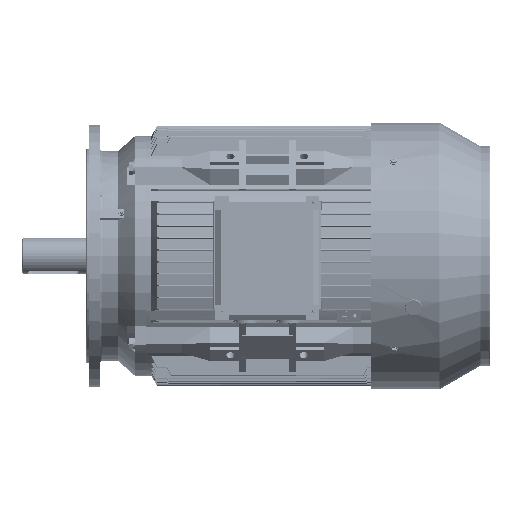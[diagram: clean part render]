
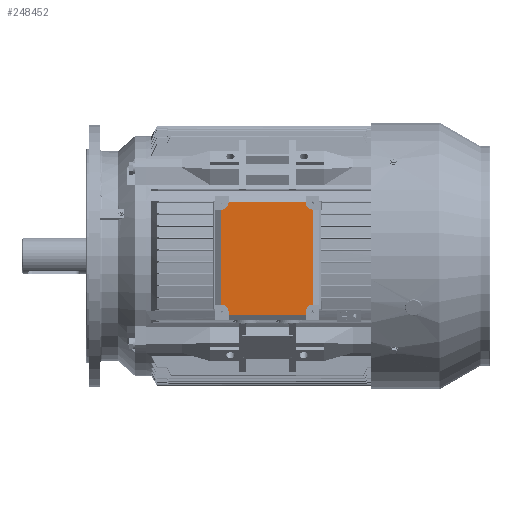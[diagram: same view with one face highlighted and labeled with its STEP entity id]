
A CAD part, top view. The second image highlights one B-rep face of the part: STEP entity #248452.
In plain terms, the highlighted planar face has unit normal (0, 0, 1).
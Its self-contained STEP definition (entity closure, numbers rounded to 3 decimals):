
#90218 = DIRECTION ( 'NONE',  ( -1., 0., 0. ) ) ;
#90222 = DIRECTION ( 'NONE',  ( 0., 0., 1. ) ) ;
#92531 = LINE ( 'NONE', #92857, #92853 ) ;
#92582 = CARTESIAN_POINT ( 'NONE',  ( -102., 97., 16. ) ) ;
#92592 = DIRECTION ( 'NONE',  ( -1., 0., 0. ) ) ;
#92595 = VECTOR ( 'NONE', #92592, 1000. ) ;
#92600 = CARTESIAN_POINT ( 'NONE',  ( -102., 97., 16. ) ) ;
#92601 = LINE ( 'NONE', #92600, #92595 ) ;
#92718 = CARTESIAN_POINT ( 'NONE',  ( -117., 81., 16. ) ) ;
#92736 = DIRECTION ( 'NONE',  ( -1., 0., 0. ) ) ;
#92740 = DIRECTION ( 'NONE',  ( 0., 0., 1. ) ) ;
#92744 = CARTESIAN_POINT ( 'NONE',  ( -117., 96., 16. ) ) ;
#92746 = AXIS2_PLACEMENT_3D ( 'NONE', #92744, #92740, #92736 ) ;
#92750 = CIRCLE ( 'NONE', #92746, 15. ) ;
#92843 = CARTESIAN_POINT ( 'NONE',  ( -102., 96., 16. ) ) ;
#92848 = DIRECTION ( 'NONE',  ( 0., 1., 0. ) ) ;
#92853 = VECTOR ( 'NONE', #92848, 1000. ) ;
#92857 = CARTESIAN_POINT ( 'NONE',  ( -102., 109., 16. ) ) ;
#92870 = CARTESIAN_POINT ( 'NONE',  ( -117., -96., 16. ) ) ;
#92872 = AXIS2_PLACEMENT_3D ( 'NONE', #92870, #90222, #90218 ) ;
#92875 = CIRCLE ( 'NONE', #92872, 15. ) ;
#93058 = PLANE ( 'NONE',  #93380 ) ;
#93061 = FACE_OUTER_BOUND ( 'NONE', #248459, .T. ) ;
#93068 = CARTESIAN_POINT ( 'NONE',  ( -102., -97., 16. ) ) ;
#93119 = DIRECTION ( 'NONE',  ( 0., 1., 0. ) ) ;
#93121 = VECTOR ( 'NONE', #93119, 1000. ) ;
#93125 = CARTESIAN_POINT ( 'NONE',  ( -102., -109., 16. ) ) ;
#93127 = LINE ( 'NONE', #93125, #93121 ) ;
#93171 = CARTESIAN_POINT ( 'NONE',  ( -102., -96., 16. ) ) ;
#93212 = CARTESIAN_POINT ( 'NONE',  ( 97., 96., 16. ) ) ;
#93216 = CARTESIAN_POINT ( 'NONE',  ( 97., 97., 16. ) ) ;
#93250 = DIRECTION ( 'NONE',  ( 0., -1., 0. ) ) ;
#93255 = VECTOR ( 'NONE', #93250, 1000. ) ;
#93258 = CARTESIAN_POINT ( 'NONE',  ( 97., 109., 16. ) ) ;
#93284 = LINE ( 'NONE', #93258, #93255 ) ;
#93374 = DIRECTION ( 'NONE',  ( 1., 0., 0. ) ) ;
#93376 = DIRECTION ( 'NONE',  ( 0., 0., 1. ) ) ;
#93379 = CARTESIAN_POINT ( 'NONE',  ( -130., -109., 16. ) ) ;
#93380 = AXIS2_PLACEMENT_3D ( 'NONE', #93379, #93376, #93374 ) ;
#93432 = CARTESIAN_POINT ( 'NONE',  ( 118., 81., 16. ) ) ;
#93458 = DIRECTION ( 'NONE',  ( 0., 1., 0. ) ) ;
#93460 = VECTOR ( 'NONE', #93458, 1000. ) ;
#93462 = CARTESIAN_POINT ( 'NONE',  ( 118., 81., 16. ) ) ;
#93464 = LINE ( 'NONE', #93462, #93460 ) ;
#93592 = DIRECTION ( 'NONE',  ( 0., -1., 0. ) ) ;
#93593 = VECTOR ( 'NONE', #93592, 1000. ) ;
#93596 = CARTESIAN_POINT ( 'NONE',  ( -118., -81., 16. ) ) ;
#93598 = LINE ( 'NONE', #93596, #93593 ) ;
#93650 = CARTESIAN_POINT ( 'NONE',  ( -118., 81., 16. ) ) ;
#93681 = DIRECTION ( 'NONE',  ( 1., 0., 0. ) ) ;
#93683 = VECTOR ( 'NONE', #93681, 1000. ) ;
#93687 = CARTESIAN_POINT ( 'NONE',  ( -130., 81., 16. ) ) ;
#93696 = LINE ( 'NONE', #93687, #93683 ) ;
#93788 = CARTESIAN_POINT ( 'NONE',  ( -117., -81., 16. ) ) ;
#93815 = DIRECTION ( 'NONE',  ( -1., 0., 0. ) ) ;
#93817 = VECTOR ( 'NONE', #93815, 1000. ) ;
#93820 = CARTESIAN_POINT ( 'NONE',  ( -130., -81., 16. ) ) ;
#93822 = LINE ( 'NONE', #93820, #93817 ) ;
#93869 = CARTESIAN_POINT ( 'NONE',  ( -118., -81., 16. ) ) ;
#93877 = CARTESIAN_POINT ( 'NONE',  ( 112., -96., 16. ) ) ;
#93934 = CARTESIAN_POINT ( 'NONE',  ( 97., -96., 16. ) ) ;
#93937 = DIRECTION ( 'NONE',  ( 0., -1., 0. ) ) ;
#93940 = VECTOR ( 'NONE', #93937, 1000. ) ;
#93941 = CARTESIAN_POINT ( 'NONE',  ( 97., -109., 16. ) ) ;
#93943 = LINE ( 'NONE', #93941, #93940 ) ;
#94091 = CARTESIAN_POINT ( 'NONE',  ( 118., -81., 16. ) ) ;
#94122 = DIRECTION ( 'NONE',  ( -1., 0., 0. ) ) ;
#94126 = VECTOR ( 'NONE', #94122, 1000. ) ;
#94129 = CARTESIAN_POINT ( 'NONE',  ( 130., -81., 16. ) ) ;
#94131 = LINE ( 'NONE', #94129, #94126 ) ;
#94158 = CARTESIAN_POINT ( 'NONE',  ( 112., -81., 16. ) ) ;
#94198 = DIRECTION ( 'NONE',  ( -1., 0., 0. ) ) ;
#94200 = DIRECTION ( 'NONE',  ( 0., 0., 1. ) ) ;
#94204 = AXIS2_PLACEMENT_3D ( 'NONE', #93877, #94200, #94198 ) ;
#94206 = CIRCLE ( 'NONE', #94204, 15. ) ;
#94395 = CARTESIAN_POINT ( 'NONE',  ( 97., -97., 16. ) ) ;
#94398 = DIRECTION ( 'NONE',  ( 1., 0., 0. ) ) ;
#94400 = VECTOR ( 'NONE', #94398, 1000. ) ;
#94403 = CARTESIAN_POINT ( 'NONE',  ( 97., -97., 16. ) ) ;
#94407 = LINE ( 'NONE', #94403, #94400 ) ;
#94751 = CARTESIAN_POINT ( 'NONE',  ( 112., 81., 16. ) ) ;
#94756 = DIRECTION ( 'NONE',  ( 1., 0., 0. ) ) ;
#94759 = VECTOR ( 'NONE', #94756, 1000. ) ;
#94764 = CARTESIAN_POINT ( 'NONE',  ( 130., 81., 16. ) ) ;
#94766 = LINE ( 'NONE', #94764, #94759 ) ;
#94961 = DIRECTION ( 'NONE',  ( -1., 0., 0. ) ) ;
#94964 = DIRECTION ( 'NONE',  ( 0., 0., 1. ) ) ;
#94968 = CARTESIAN_POINT ( 'NONE',  ( 112., 96., 16. ) ) ;
#94970 = AXIS2_PLACEMENT_3D ( 'NONE', #94968, #94964, #94961 ) ;
#94973 = CIRCLE ( 'NONE', #94970, 15. ) ;
#248233 = EDGE_CURVE ( 'NONE', #248501, #248238, #92601, .T. ) ;
#248238 = VERTEX_POINT ( 'NONE', #92582 ) ;
#248251 = ORIENTED_EDGE ( 'NONE', *, *, #248270, .F. ) ;
#248270 = EDGE_CURVE ( 'NONE', #248280, #248238, #92531, .T. ) ;
#248280 = VERTEX_POINT ( 'NONE', #92843 ) ;
#248296 = ORIENTED_EDGE ( 'NONE', *, *, #248314, .F. ) ;
#248314 = EDGE_CURVE ( 'NONE', #248325, #248280, #92750, .T. ) ;
#248325 = VERTEX_POINT ( 'NONE', #92718 ) ;
#248385 = EDGE_CURVE ( 'NONE', #248393, #248661, #92875, .T. ) ;
#248393 = VERTEX_POINT ( 'NONE', #93171 ) ;
#248402 = ORIENTED_EDGE ( 'NONE', *, *, #248423, .F. ) ;
#248423 = EDGE_CURVE ( 'NONE', #248435, #248393, #93127, .T. ) ;
#248435 = VERTEX_POINT ( 'NONE', #93068 ) ;
#248452 = ADVANCED_FACE ( 'NONE', ( #93061 ), #93058, .T. ) ;
#248459 = EDGE_LOOP ( 'NONE', ( #248482, #248522, #248251, #248296, #248572, #248605, #248641, #248675, #248402, #248966, #248697, #248752, #248786, #248832, #249056, #249096 ) ) ;
#248482 = ORIENTED_EDGE ( 'NONE', *, *, #248490, .F. ) ;
#248490 = EDGE_CURVE ( 'NONE', #248501, #248505, #93284, .T. ) ;
#248501 = VERTEX_POINT ( 'NONE', #93216 ) ;
#248505 = VERTEX_POINT ( 'NONE', #93212 ) ;
#248522 = ORIENTED_EDGE ( 'NONE', *, *, #248233, .T. ) ;
#248544 = EDGE_CURVE ( 'NONE', #248807, #248554, #93464, .T. ) ;
#248554 = VERTEX_POINT ( 'NONE', #93432 ) ;
#248572 = ORIENTED_EDGE ( 'NONE', *, *, #248577, .F. ) ;
#248577 = EDGE_CURVE ( 'NONE', #248587, #248325, #93696, .T. ) ;
#248587 = VERTEX_POINT ( 'NONE', #93650 ) ;
#248605 = ORIENTED_EDGE ( 'NONE', *, *, #248616, .T. ) ;
#248616 = EDGE_CURVE ( 'NONE', #248587, #248629, #93598, .T. ) ;
#248629 = VERTEX_POINT ( 'NONE', #93869 ) ;
#248641 = ORIENTED_EDGE ( 'NONE', *, *, #248651, .F. ) ;
#248651 = EDGE_CURVE ( 'NONE', #248661, #248629, #93822, .T. ) ;
#248661 = VERTEX_POINT ( 'NONE', #93788 ) ;
#248675 = ORIENTED_EDGE ( 'NONE', *, *, #248385, .F. ) ;
#248697 = ORIENTED_EDGE ( 'NONE', *, *, #248714, .F. ) ;
#248714 = EDGE_CURVE ( 'NONE', #248725, #248981, #93943, .T. ) ;
#248725 = VERTEX_POINT ( 'NONE', #93934 ) ;
#248752 = ORIENTED_EDGE ( 'NONE', *, *, #248763, .F. ) ;
#248763 = EDGE_CURVE ( 'NONE', #248772, #248725, #94206, .T. ) ;
#248772 = VERTEX_POINT ( 'NONE', #94158 ) ;
#248786 = ORIENTED_EDGE ( 'NONE', *, *, #248798, .F. ) ;
#248798 = EDGE_CURVE ( 'NONE', #248807, #248772, #94131, .T. ) ;
#248807 = VERTEX_POINT ( 'NONE', #94091 ) ;
#248832 = ORIENTED_EDGE ( 'NONE', *, *, #248544, .T. ) ;
#248966 = ORIENTED_EDGE ( 'NONE', *, *, #248973, .T. ) ;
#248973 = EDGE_CURVE ( 'NONE', #248435, #248981, #94407, .T. ) ;
#248981 = VERTEX_POINT ( 'NONE', #94395 ) ;
#249056 = ORIENTED_EDGE ( 'NONE', *, *, #249070, .F. ) ;
#249070 = EDGE_CURVE ( 'NONE', #249075, #248554, #94766, .T. ) ;
#249075 = VERTEX_POINT ( 'NONE', #94751 ) ;
#249096 = ORIENTED_EDGE ( 'NONE', *, *, #249104, .F. ) ;
#249104 = EDGE_CURVE ( 'NONE', #248505, #249075, #94973, .T. ) ;
